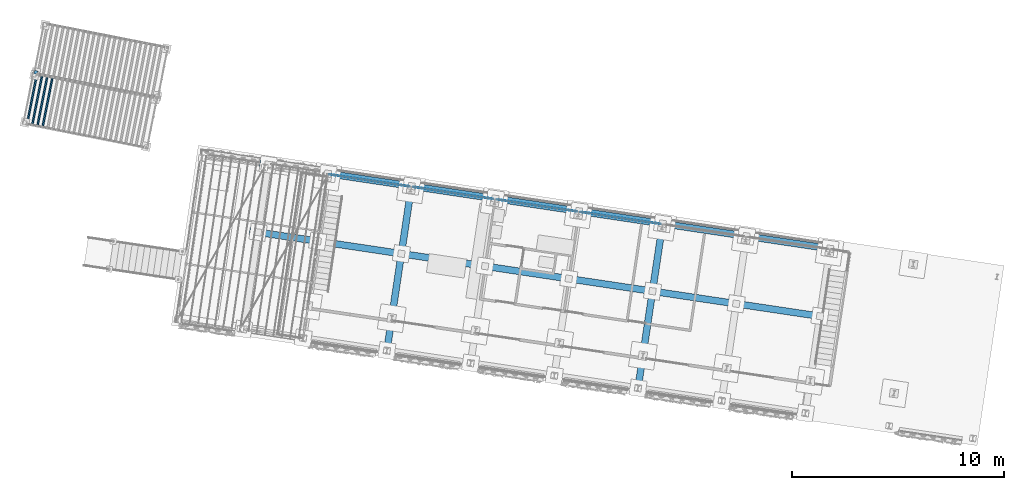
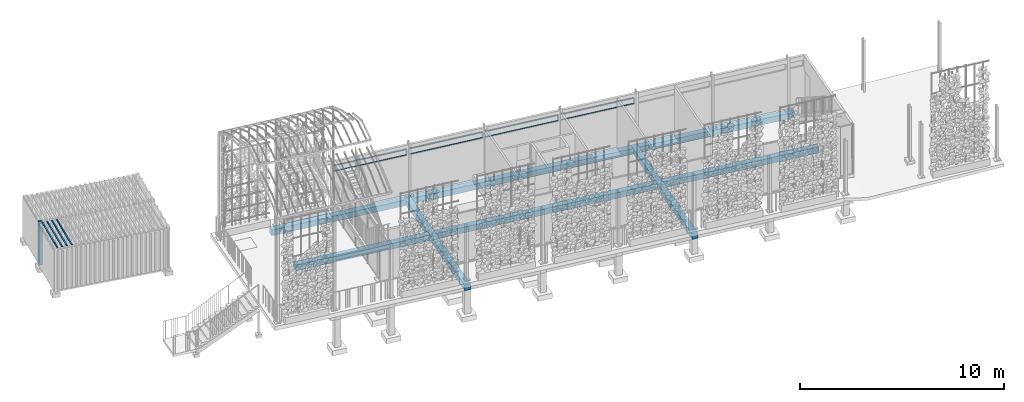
# One storey, part 82 of 142: 13 members, 4 beams, 3 elements without a shape of their own.
"""IFC4 building model written with IfcOpenShell, lengths in metres."""

from ifc_helpers import new_model, si_unit, direction, frame, origin_with_axes, place, context, subcontext, project, spatial, polyline, rectangle, outline, extrude, material, material_profile, profile_set, profile_usage, type_object, element, aggregate, save


model = new_model("IFC4")

# Units and contexts
model_context = context("Model", 3, precision=1e-05, world=origin_with_axes(), true_north=direction((0.0, 1.0)))
body_context = subcontext(model_context, "Body", "Model", "MODEL_VIEW")
ifc_project = project(units=[si_unit("AREAUNIT", "SQUARE_METRE"), si_unit("VOLUMEUNIT", "CUBIC_METRE"), si_unit("LENGTHUNIT", "METRE")], contexts=[model_context])

# Site, building, storey
site_placement = place(None, origin_with_axes())
site = spatial("IfcSite", under=ifc_project, at=site_placement, Name="Lares · Rua das Mercês · artigo 4771")
building_placement = place(site_placement, frame((15.0, 9.7, 14.65), z_axis=(0.0, 0.0, 1.0), x_axis=(0.989015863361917, -0.147809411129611, 0.0)))
building = spatial("IfcBuilding", under=site, at=building_placement, Name="Casa Sobreposta")
storey_placement = place(building_placement, origin_with_axes())
storey = spatial("IfcBuildingStorey", under=building, at=storey_placement, Name="00 · Habitação e estacionamento", Elevation=14.65)

# Members
ifc_material_1 = material(Name="Aço pintado / Stahl lackiert", Category="steel")
ifc_material_profile = material_profile(ifc_material_1, rectangle(XDim=0.035, YDim=0.035))
ifc_profile_set = profile_set([ifc_material_profile], Name="R0.035")
ifc_profile_usage_1 = profile_usage(ifc_profile_set)
member_type = type_object("IfcMemberType", Name="R0.035 / steel", PredefinedType="NOTDEFINED", material=ifc_profile_set)
member_1_placement = place(storey_placement, frame((0.08, 6.4, 2.35), z_axis=(1.0, 0.0, 0.0), x_axis=(0.0, -1.0, 0.0)))
element("IfcMember", 1, at=member_1_placement, inside=storey, type_object=member_type, material=ifc_profile_usage_1, Name="Rasgo norte 1 · travessa", context=body_context, shape_type="SweptSolid", body=[
    extrude(rectangle(XDim=0.035, YDim=0.035), origin_with_axes(), (0.0, 0.0, 1.0), 3.84),
])
ifc_profile_usage_2 = profile_usage(ifc_profile_set)
member_2_placement = place(storey_placement, frame((0.08, 6.4, 2.7), z_axis=(1.0, 0.0, 0.0), x_axis=(0.0, -1.0, 0.0)))
element("IfcMember", 2, at=member_2_placement, inside=storey, type_object=member_type, material=ifc_profile_usage_2, Name="Rasgo norte 1 · travessa", context=body_context, shape_type="SweptSolid", body=[
    extrude(rectangle(XDim=0.035, YDim=0.035), origin_with_axes(), (0.0, 0.0, 1.0), 3.84),
])
ifc_profile_usage_3 = profile_usage(ifc_profile_set)
member_3_placement = place(storey_placement, frame((4.08, 6.4, 2.35), z_axis=(1.0, 0.0, 0.0), x_axis=(0.0, -1.0, 0.0)))
element("IfcMember", 3, at=member_3_placement, inside=storey, type_object=member_type, material=ifc_profile_usage_3, Name="Rasgo norte 2 · travessa", context=body_context, shape_type="SweptSolid", body=[
    extrude(rectangle(XDim=0.035, YDim=0.035), origin_with_axes(), (0.0, 0.0, 1.0), 3.84),
])
ifc_profile_usage_4 = profile_usage(ifc_profile_set)
member_4_placement = place(storey_placement, frame((4.08, 6.4, 2.7), z_axis=(1.0, 0.0, 0.0), x_axis=(0.0, -1.0, 0.0)))
element("IfcMember", 4, at=member_4_placement, inside=storey, type_object=member_type, material=ifc_profile_usage_4, Name="Rasgo norte 2 · travessa", context=body_context, shape_type="SweptSolid", body=[
    extrude(rectangle(XDim=0.035, YDim=0.035), origin_with_axes(), (0.0, 0.0, 1.0), 3.84),
])
ifc_profile_usage_5 = profile_usage(ifc_profile_set)
member_5_placement = place(storey_placement, frame((8.08, 6.4, 2.35), z_axis=(1.0, 0.0, 0.0), x_axis=(0.0, -1.0, 0.0)))
element("IfcMember", 5, at=member_5_placement, inside=storey, type_object=member_type, material=ifc_profile_usage_5, Name="Rasgo norte 3 · travessa", context=body_context, shape_type="SweptSolid", body=[
    extrude(rectangle(XDim=0.035, YDim=0.035), origin_with_axes(), (0.0, 0.0, 1.0), 3.84),
])
ifc_profile_usage_6 = profile_usage(ifc_profile_set)
member_6_placement = place(storey_placement, frame((8.08, 6.4, 2.7), z_axis=(1.0, 0.0, 0.0), x_axis=(0.0, -1.0, 0.0)))
element("IfcMember", 6, at=member_6_placement, inside=storey, type_object=member_type, material=ifc_profile_usage_6, Name="Rasgo norte 3 · travessa", context=body_context, shape_type="SweptSolid", body=[
    extrude(rectangle(XDim=0.035, YDim=0.035), origin_with_axes(), (0.0, 0.0, 1.0), 3.84),
])
ifc_profile_usage_7 = profile_usage(ifc_profile_set)
member_7_placement = place(storey_placement, frame((12.08, 6.4, 2.35), z_axis=(1.0, 0.0, 0.0), x_axis=(0.0, -1.0, 0.0)))
element("IfcMember", 7, at=member_7_placement, inside=storey, type_object=member_type, material=ifc_profile_usage_7, Name="Rasgo norte 4 · travessa", context=body_context, shape_type="SweptSolid", body=[
    extrude(rectangle(XDim=0.035, YDim=0.035), origin_with_axes(), (0.0, 0.0, 1.0), 3.84),
])
ifc_profile_usage_8 = profile_usage(ifc_profile_set)
member_8_placement = place(storey_placement, frame((12.08, 6.4, 2.7), z_axis=(1.0, 0.0, 0.0), x_axis=(0.0, -1.0, 0.0)))
element("IfcMember", 8, at=member_8_placement, inside=storey, type_object=member_type, material=ifc_profile_usage_8, Name="Rasgo norte 4 · travessa", context=body_context, shape_type="SweptSolid", body=[
    extrude(rectangle(XDim=0.035, YDim=0.035), origin_with_axes(), (0.0, 0.0, 1.0), 3.84),
])

# Assembly, beams
assembly_1_placement = place(storey_placement, origin_with_axes())
assembly_1 = element("IfcElementAssembly", 9, at=assembly_1_placement, inside=storey, Name="Pódio · terraço, casa térrea e cisterna", ObjectType="CISTERN_PODIUM", PredefinedType="USERDEFINED")
ifc_material_2 = material(Name="Betão armado / Stahlbeton", Category="concrete")
beam_1_placement = place(assembly_1_placement, frame((0.0, 0.0, -0.59), z_axis=(0.0, 0.0, 1.0), x_axis=(1.0, 0.0, 0.0)))
beam_1 = element("IfcBeam", 10, at=beam_1_placement, material=ifc_material_2, Name="Pódio suspenso · viga transversal", context=body_context, shape_type="SweptSolid", body=[
    extrude(outline(polyline([(4.16, -1.59), (4.16, 6.59), (3.84, 6.59), (3.84, -1.59), (4.16, -1.59)])), origin_with_axes(), (0.0, 0.0, 1.0), 0.34),
])
beam_2_placement = place(assembly_1_placement, frame((0.0, 0.0, -0.59), z_axis=(0.0, 0.0, 1.0), x_axis=(1.0, 0.0, 0.0)))
beam_2 = element("IfcBeam", 11, at=beam_2_placement, material=ifc_material_2, Name="Pódio suspenso · viga transversal", context=body_context, shape_type="SweptSolid", body=[
    extrude(outline(polyline([(16.16, -1.59), (16.16, 6.59), (15.84, 6.59), (15.84, -1.59), (16.16, -1.59)])), origin_with_axes(), (0.0, 0.0, 1.0), 0.34),
])
beam_3_placement = place(assembly_1_placement, frame((0.0, 0.0, -0.59), z_axis=(0.0, 0.0, 1.0), x_axis=(1.0, 0.0, 0.0)))
beam_3 = element("IfcBeam", 12, at=beam_3_placement, material=ifc_material_2, Name="Pódio suspenso · viga longitudinal", context=body_context, shape_type="SweptSolid", body=[
    extrude(outline(polyline([(24.36, 3.04), (24.36, 3.36), (-3.25, 3.36), (-3.25, 3.04), (24.36, 3.04)])), origin_with_axes(), (0.0, 0.0, 1.0), 0.34),
])
beam_4_placement = place(assembly_1_placement, frame((0.0, 0.0, -0.59), z_axis=(0.0, 0.0, 1.0), x_axis=(1.0, 0.0, 0.0)))
beam_4 = element("IfcBeam", 13, at=beam_4_placement, material=ifc_material_2, Name="Pódio suspenso · viga longitudinal", context=body_context, shape_type="SweptSolid", body=[
    extrude(outline(polyline([(24.36, 6.27), (24.36, 6.59), (-3.25, 6.59), (-3.25, 6.27), (24.36, 6.27)])), origin_with_axes(), (0.0, 0.0, 1.0), 0.34),
])
aggregate(assembly_1, [beam_1, beam_2, beam_3, beam_4])

# Assembly, member
assembly_2_placement = place(storey_placement, frame((-14.4335953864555, 9.04888612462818, 0.0), z_axis=(0.0, 0.0, 1.0), x_axis=(0.999032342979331, -0.0439815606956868, 0.0)))
assembly_2 = element("IfcElementAssembly", 14, at=assembly_2_placement, inside=storey, Name="Contentor existente 1 · 6 m", ObjectType="EXISTING_SHIPPING_CONTAINER", PredefinedType="USERDEFINED")
ifc_material_3 = material(Name="Contentor · pintura 1", Category="steel")
member_9_placement = place(assembly_2_placement, frame((0.0, 0.0, -1.3), z_axis=(0.0, 0.0, 1.0), x_axis=(1.0, 0.0, 0.0)))
member_9 = element("IfcMember", 15, at=member_9_placement, material=ifc_material_3, Name="Contentor · canto", context=body_context, shape_type="SweptSolid", body=[
    extrude(outline(polyline([(0.16, 0.0), (0.16, 0.16), (0.0, 0.16), (0.0, 0.0), (0.16, 0.0)])), origin_with_axes(), (0.0, 0.0, 1.0), 2.59),
])
aggregate(assembly_2, [member_9])

# Assembly, members
assembly_3_placement = place(storey_placement, frame((-14.5932944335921, 6.63122214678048, 0.0), z_axis=(0.0, 0.0, 1.0), x_axis=(0.998832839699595, -0.0483007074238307, 0.0)))
assembly_3 = element("IfcElementAssembly", 16, at=assembly_3_placement, inside=storey, Name="Contentor existente 2 · 6 m", ObjectType="EXISTING_SHIPPING_CONTAINER", PredefinedType="USERDEFINED")
ifc_material_4 = material(Name="Contentor · pintura 2", Category="steel")
member_10_placement = place(assembly_3_placement, frame((0.0, 0.0, 1.285), z_axis=(0.0, 0.0, 1.0), x_axis=(1.0, 0.0, 0.0)))
member_10 = element("IfcMember", 17, at=member_10_placement, material=ifc_material_4, Name="Contentor · nervura cobertura", context=body_context, shape_type="SweptSolid", body=[
    extrude(outline(polyline([(0.23, 0.08), (0.23, 2.36), (0.15, 2.36), (0.15, 0.08), (0.23, 0.08)])), origin_with_axes(), (0.0, 0.0, 1.0), 0.018),
])
member_11_placement = place(assembly_3_placement, frame((0.0, 0.0, 1.285), z_axis=(0.0, 0.0, 1.0), x_axis=(1.0, 0.0, 0.0)))
member_11 = element("IfcMember", 18, at=member_11_placement, material=ifc_material_4, Name="Contentor · nervura cobertura", context=body_context, shape_type="SweptSolid", body=[
    extrude(outline(polyline([(0.48, 0.08), (0.48, 2.36), (0.4, 2.36), (0.4, 0.08), (0.48, 0.08)])), origin_with_axes(), (0.0, 0.0, 1.0), 0.018),
])
member_12_placement = place(assembly_3_placement, frame((0.0, 0.0, 1.285), z_axis=(0.0, 0.0, 1.0), x_axis=(1.0, 0.0, 0.0)))
member_12 = element("IfcMember", 19, at=member_12_placement, material=ifc_material_4, Name="Contentor · nervura cobertura", context=body_context, shape_type="SweptSolid", body=[
    extrude(outline(polyline([(0.73, 0.08), (0.73, 2.36), (0.65, 2.36), (0.65, 0.08), (0.73, 0.08)])), origin_with_axes(), (0.0, 0.0, 1.0), 0.018),
])
member_13_placement = place(assembly_3_placement, frame((0.0, 0.0, 1.285), z_axis=(0.0, 0.0, 1.0), x_axis=(1.0, 0.0, 0.0)))
member_13 = element("IfcMember", 20, at=member_13_placement, material=ifc_material_4, Name="Contentor · nervura cobertura", context=body_context, shape_type="SweptSolid", body=[
    extrude(outline(polyline([(0.98, 0.08), (0.98, 2.36), (0.9, 2.36), (0.9, 0.08), (0.98, 0.08)])), origin_with_axes(), (0.0, 0.0, 1.0), 0.018),
])
aggregate(assembly_3, [member_10, member_11, member_12, member_13])

save(model, "model.ifc")
